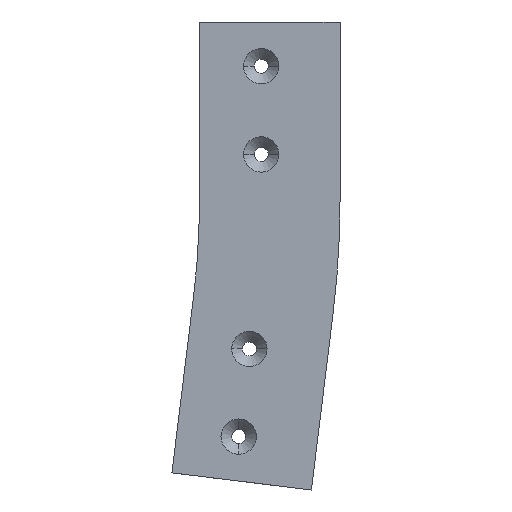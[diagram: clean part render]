
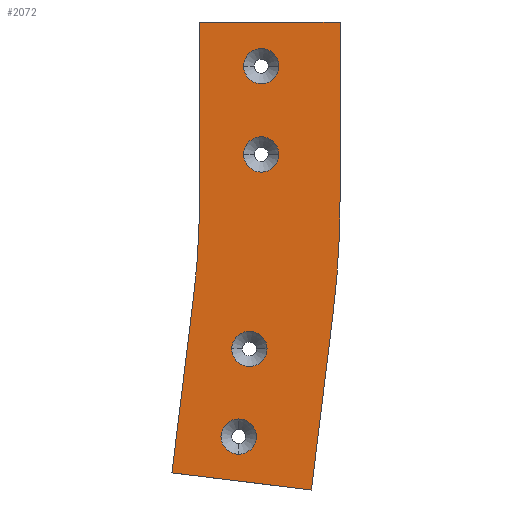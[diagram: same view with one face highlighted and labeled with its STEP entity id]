
A CAD part, left-side view. The second image highlights one B-rep face of the part: STEP entity #2072.
In plain terms, the highlighted planar face has unit normal (-1, 0, 0).
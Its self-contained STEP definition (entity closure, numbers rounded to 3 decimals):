
#7 = VERTEX_POINT ( 'NONE', #547 ) ;
#11 = VERTEX_POINT ( 'NONE', #551 ) ;
#12 = VERTEX_POINT ( 'NONE', #552 ) ;
#28 = VERTEX_POINT ( 'NONE', #518 ) ;
#33 = VERTEX_POINT ( 'NONE', #512 ) ;
#81 = VERTEX_POINT ( 'NONE', #484 ) ;
#108 = VERTEX_POINT ( 'NONE', #430 ) ;
#331 = DIRECTION ( 'NONE',  ( 0., -1., 0. ) ) ;
#368 = CARTESIAN_POINT ( 'NONE',  ( -35., 39.8, -100. ) ) ;
#369 = PLANE ( 'NONE',  #2315 ) ;
#371 = DIRECTION ( 'NONE',  ( -1., 0., 0. ) ) ;
#430 = CARTESIAN_POINT ( 'NONE',  ( -35., -39.8, -100. ) ) ;
#484 = CARTESIAN_POINT ( 'NONE',  ( -35., 14.8, -75. ) ) ;
#512 = CARTESIAN_POINT ( 'NONE',  ( -35., 39.8, -100. ) ) ;
#518 = CARTESIAN_POINT ( 'NONE',  ( -35., 39.8, 0. ) ) ;
#547 = CARTESIAN_POINT ( 'NONE',  ( -35., 17.631, -224.791 ) ) ;
#551 = CARTESIAN_POINT ( 'NONE',  ( -35., 55.417, -255.339 ) ) ;
#552 = CARTESIAN_POINT ( 'NONE',  ( -35., 43.23, -156.084 ) ) ;
#584 = VERTEX_POINT ( 'NONE', #867 ) ;
#590 = VERTEX_POINT ( 'NONE', #865 ) ;
#595 = VERTEX_POINT ( 'NONE', #837 ) ;
#600 = VERTEX_POINT ( 'NONE', #832 ) ;
#604 = VERTEX_POINT ( 'NONE', #828 ) ;
#609 = VERTEX_POINT ( 'NONE', #789 ) ;
#645 = VERTEX_POINT ( 'NONE', #694 ) ;
#647 = VERTEX_POINT ( 'NONE', #692 ) ;
#691 = CARTESIAN_POINT ( 'NONE',  ( -35., -35.776, -165.785 ) ) ;
#692 = CARTESIAN_POINT ( 'NONE',  ( -35., -23.589, -265.04 ) ) ;
#694 = CARTESIAN_POINT ( 'NONE',  ( -35., -5.2, -75. ) ) ;
#700 = VERTEX_POINT ( 'NONE', #691 ) ;
#789 = CARTESIAN_POINT ( 'NONE',  ( -35., 21.538, -185.163 ) ) ;
#828 = CARTESIAN_POINT ( 'NONE',  ( -35., 1.538, -185.163 ) ) ;
#832 = CARTESIAN_POINT ( 'NONE',  ( -35., 14.8, -25. ) ) ;
#837 = CARTESIAN_POINT ( 'NONE',  ( -35., -39.8, 0. ) ) ;
#865 = CARTESIAN_POINT ( 'NONE',  ( -35., 17.631, -244.791 ) ) ;
#867 = CARTESIAN_POINT ( 'NONE',  ( -35., -5.2, -25. ) ) ;
#919 = CIRCLE ( 'NONE', #2436, 10. ) ;
#925 = CIRCLE ( 'NONE', #2582, 10. ) ;
#951 = CIRCLE ( 'NONE', #2565, 10. ) ;
#1102 = LINE ( 'NONE', #1988, #1113 ) ;
#1111 = CIRCLE ( 'NONE', #2681, 539.8 ) ;
#1113 = VECTOR ( 'NONE', #1989, 1000. ) ;
#1186 = VECTOR ( 'NONE', #1667, 1000. ) ;
#1187 = LINE ( 'NONE', #1423, #1186 ) ;
#1218 = CIRCLE ( 'NONE', #2564, 10. ) ;
#1239 = CIRCLE ( 'NONE', #2577, 10. ) ;
#1240 = VECTOR ( 'NONE', #1846, 1000. ) ;
#1241 = LINE ( 'NONE', #1852, #1240 ) ;
#1246 = CIRCLE ( 'NONE', #2426, 10. ) ;
#1247 = LINE ( 'NONE', #1959, #1250 ) ;
#1248 = CIRCLE ( 'NONE', #2471, 10. ) ;
#1250 = VECTOR ( 'NONE', #1838, 1000. ) ;
#1254 = VECTOR ( 'NONE', #1946, 1000. ) ;
#1255 = LINE ( 'NONE', #1922, #1254 ) ;
#1406 = DIRECTION ( 'NONE',  ( 0., -1., 0. ) ) ;
#1407 = DIRECTION ( 'NONE',  ( 1., 0., 0. ) ) ;
#1422 = CARTESIAN_POINT ( 'NONE',  ( -35., 4.8, -25. ) ) ;
#1423 = CARTESIAN_POINT ( 'NONE',  ( -35., 43.23, -156.084 ) ) ;
#1488 = DIRECTION ( 'NONE',  ( 0., -1., 0. ) ) ;
#1502 = CARTESIAN_POINT ( 'NONE',  ( -35., 11.538, -185.163 ) ) ;
#1503 = DIRECTION ( 'NONE',  ( 0., -1., 0. ) ) ;
#1526 = DIRECTION ( 'NONE',  ( 1., 0., 0. ) ) ;
#1527 = CARTESIAN_POINT ( 'NONE',  ( -35., 17.631, -234.791 ) ) ;
#1591 = DIRECTION ( 'NONE',  ( 1., 0., 0. ) ) ;
#1636 = DIRECTION ( 'NONE',  ( 0., 0.122, -0.993 ) ) ;
#1639 = DIRECTION ( 'NONE',  ( 0., -1., 0. ) ) ;
#1647 = CARTESIAN_POINT ( 'NONE',  ( -35., 11.538, -185.163 ) ) ;
#1648 = DIRECTION ( 'NONE',  ( 1., 0., 0. ) ) ;
#1649 = DIRECTION ( 'NONE',  ( 1., 0., 0. ) ) ;
#1667 = DIRECTION ( 'NONE',  ( 0., 0.122, -0.993 ) ) ;
#1684 = DIRECTION ( 'NONE',  ( 0., 0., -1. ) ) ;
#1698 = DIRECTION ( 'NONE',  ( 0., -1., 0. ) ) ;
#1729 = CARTESIAN_POINT ( 'NONE',  ( -35., -35.776, -165.785 ) ) ;
#1730 = DIRECTION ( 'NONE',  ( 1., 0., 0. ) ) ;
#1731 = CARTESIAN_POINT ( 'NONE',  ( -35., 4.8, -25. ) ) ;
#1747 = CARTESIAN_POINT ( 'NONE',  ( -35., 500., -100. ) ) ;
#1762 = DIRECTION ( 'NONE',  ( 0., -1., 0. ) ) ;
#1772 = DIRECTION ( 'NONE',  ( 1., 0., 0. ) ) ;
#1773 = CARTESIAN_POINT ( 'NONE',  ( -35., 4.8, -75. ) ) ;
#1838 = DIRECTION ( 'NONE',  ( 0., 0., 1. ) ) ;
#1840 = DIRECTION ( 'NONE',  ( 0., -1., 0. ) ) ;
#1841 = DIRECTION ( 'NONE',  ( 1., 0., 0. ) ) ;
#1844 = DIRECTION ( 'NONE',  ( 0., -1., 0. ) ) ;
#1846 = DIRECTION ( 'NONE',  ( 0., -0.993, -0.122 ) ) ;
#1852 = CARTESIAN_POINT ( 'NONE',  ( -35., 55.417, -255.339 ) ) ;
#1890 = DIRECTION ( 'NONE',  ( 1., 0., 0. ) ) ;
#1891 = CARTESIAN_POINT ( 'NONE',  ( -35., 4.8, -75. ) ) ;
#1892 = CARTESIAN_POINT ( 'NONE',  ( -35., 17.631, -234.791 ) ) ;
#1922 = CARTESIAN_POINT ( 'NONE',  ( -35., 39.8, 0. ) ) ;
#1946 = DIRECTION ( 'NONE',  ( 0., -1., 0. ) ) ;
#1959 = CARTESIAN_POINT ( 'NONE',  ( -35., 39.8, -100. ) ) ;
#1988 = CARTESIAN_POINT ( 'NONE',  ( -35., -39.8, -100. ) ) ;
#1989 = DIRECTION ( 'NONE',  ( 0., 0., 1. ) ) ;
#1993 = CARTESIAN_POINT ( 'NONE',  ( -35., 500., -100. ) ) ;
#1994 = DIRECTION ( 'NONE',  ( 1., 0., 0. ) ) ;
#1995 = DIRECTION ( 'NONE',  ( 0., 0., -1. ) ) ;
#2072 = ADVANCED_FACE ( 'NONE', ( #2857, #2855, #2854, #2853, #2852 ), #369, .T. ) ;
#2250 = EDGE_CURVE ( 'NONE', #33, #12, #3663, .T. ) ;
#2252 = EDGE_CURVE ( 'NONE', #700, #647, #3666, .T. ) ;
#2258 = EDGE_CURVE ( 'NONE', #609, #604, #3041, .T. ) ;
#2266 = EDGE_CURVE ( 'NONE', #600, #584, #1248, .T. ) ;
#2310 = EDGE_CURVE ( 'NONE', #590, #7, #1239, .T. ) ;
#2315 = AXIS2_PLACEMENT_3D ( 'NONE', #368, #371, #331 ) ;
#2322 = EDGE_CURVE ( 'NONE', #11, #647, #1241, .T. ) ;
#2324 = EDGE_CURVE ( 'NONE', #81, #645, #1246, .T. ) ;
#2326 = EDGE_CURVE ( 'NONE', #33, #28, #1247, .T. ) ;
#2329 = EDGE_CURVE ( 'NONE', #28, #595, #1255, .T. ) ;
#2423 = AXIS2_PLACEMENT_3D ( 'NONE', #1647, #1648, #1698 ) ;
#2426 = AXIS2_PLACEMENT_3D ( 'NONE', #1891, #1890, #1840 ) ;
#2436 = AXIS2_PLACEMENT_3D ( 'NONE', #1527, #1526, #1488 ) ;
#2471 = AXIS2_PLACEMENT_3D ( 'NONE', #1731, #1730, #1639 ) ;
#2494 = EDGE_CURVE ( 'NONE', #7, #590, #919, .T. ) ;
#2499 = EDGE_CURVE ( 'NONE', #604, #609, #925, .T. ) ;
#2518 = EDGE_CURVE ( 'NONE', #645, #81, #951, .T. ) ;
#2525 = EDGE_CURVE ( 'NONE', #584, #600, #1218, .T. ) ;
#2546 = EDGE_CURVE ( 'NONE', #12, #11, #1187, .T. ) ;
#2564 = AXIS2_PLACEMENT_3D ( 'NONE', #1422, #1407, #1406 ) ;
#2565 = AXIS2_PLACEMENT_3D ( 'NONE', #1773, #1772, #1762 ) ;
#2577 = AXIS2_PLACEMENT_3D ( 'NONE', #1892, #1841, #1844 ) ;
#2578 = AXIS2_PLACEMENT_3D ( 'NONE', #1747, #1649, #1684 ) ;
#2582 = AXIS2_PLACEMENT_3D ( 'NONE', #1502, #1591, #1503 ) ;
#2672 = EDGE_CURVE ( 'NONE', #108, #700, #1111, .T. ) ;
#2674 = EDGE_CURVE ( 'NONE', #108, #595, #1102, .T. ) ;
#2681 = AXIS2_PLACEMENT_3D ( 'NONE', #1993, #1994, #1995 ) ;
#2852 = FACE_OUTER_BOUND ( 'NONE', #3801, .T. ) ;
#2853 = FACE_BOUND ( 'NONE', #3800, .T. ) ;
#2854 = FACE_BOUND ( 'NONE', #3798, .T. ) ;
#2855 = FACE_BOUND ( 'NONE', #3799, .T. ) ;
#2857 = FACE_BOUND ( 'NONE', #3805, .T. ) ;
#2944 = ORIENTED_EDGE ( 'NONE', *, *, #2499, .T. ) ;
#2948 = ORIENTED_EDGE ( 'NONE', *, *, #2324, .T. ) ;
#2949 = ORIENTED_EDGE ( 'NONE', *, *, #2518, .T. ) ;
#2950 = ORIENTED_EDGE ( 'NONE', *, *, #2266, .T. ) ;
#2952 = ORIENTED_EDGE ( 'NONE', *, *, #2322, .T. ) ;
#2965 = ORIENTED_EDGE ( 'NONE', *, *, #2672, .F. ) ;
#2969 = ORIENTED_EDGE ( 'NONE', *, *, #2329, .F. ) ;
#2971 = ORIENTED_EDGE ( 'NONE', *, *, #2310, .T. ) ;
#2972 = ORIENTED_EDGE ( 'NONE', *, *, #2494, .T. ) ;
#2973 = ORIENTED_EDGE ( 'NONE', *, *, #2258, .T. ) ;
#3041 = CIRCLE ( 'NONE', #2423, 10. ) ;
#3108 = ORIENTED_EDGE ( 'NONE', *, *, #2326, .F. ) ;
#3109 = ORIENTED_EDGE ( 'NONE', *, *, #2250, .T. ) ;
#3112 = ORIENTED_EDGE ( 'NONE', *, *, #2546, .T. ) ;
#3219 = VECTOR ( 'NONE', #1636, 1000. ) ;
#3414 = ORIENTED_EDGE ( 'NONE', *, *, #2674, .T. ) ;
#3490 = ORIENTED_EDGE ( 'NONE', *, *, #2525, .T. ) ;
#3663 = CIRCLE ( 'NONE', #2578, 460.2 ) ;
#3666 = LINE ( 'NONE', #1729, #3219 ) ;
#3699 = ORIENTED_EDGE ( 'NONE', *, *, #2252, .F. ) ;
#3798 = EDGE_LOOP ( 'NONE', ( #2944, #2973 ) ) ;
#3799 = EDGE_LOOP ( 'NONE', ( #2949, #2948 ) ) ;
#3800 = EDGE_LOOP ( 'NONE', ( #2972, #2971 ) ) ;
#3801 = EDGE_LOOP ( 'NONE', ( #2969, #3108, #3109, #3112, #2952, #3699, #2965, #3414 ) ) ;
#3805 = EDGE_LOOP ( 'NONE', ( #3490, #2950 ) ) ;
